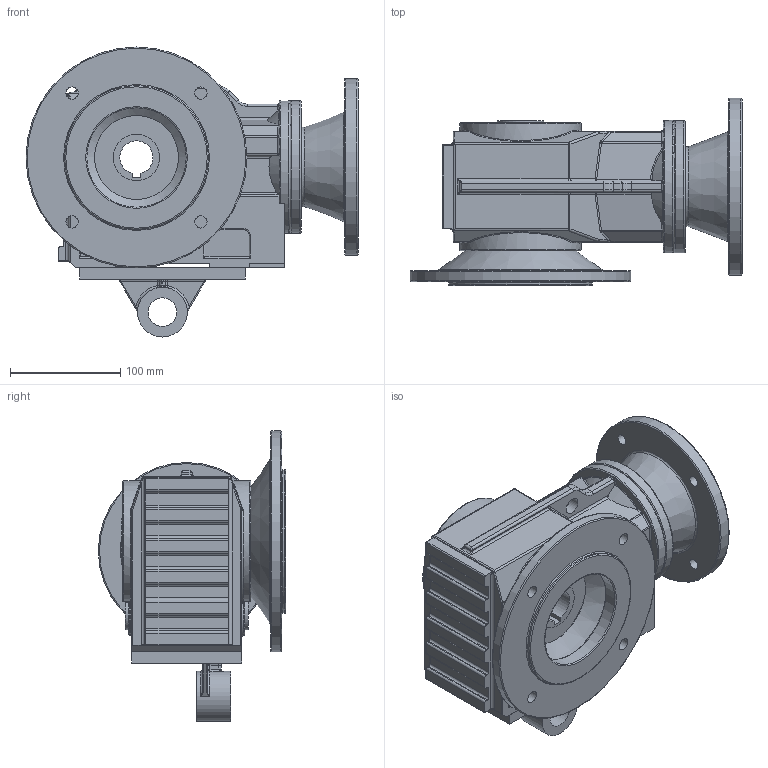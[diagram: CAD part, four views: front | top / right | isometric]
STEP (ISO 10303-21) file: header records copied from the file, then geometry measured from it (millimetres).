
FILE_DESCRIPTION((''),'2;1');
FILE_NAME('F:\PAWEŁ\ZLECENIA\2011 DualSystem\Przekładnie DK\001 Modele\DKAB30_\DK_30_STEP\DK_A_30_AF_AT_71_B5_L61,5.stp','2012-06-25T19:54:47',('admin'),(''),'Autodesk Inventor 2009','Autodesk Inventor 2009','');
FILE_SCHEMA(('AUTOMOTIVE_DESIGN { 1 0 10303 214 1 1 1 1 }'));
Length unit declared in the file: millimetre
Products named in the file (5): DK_A_30_AF_AT_71_B5_L61,5 (Poziom szczegółów1); DK_A_30; 71_B5_L61,5; AF_F_30; AT_30
Assembly tree (4 placements, depth 2):
  DK_A_30_AF_AT_71_B5_L61,5 (Poziom szczegółów1)
    DK_A_30
    71_B5_L61,5
    AF_F_30
    AT_30
Bounding box: 300.5 x 169.5 x 262.5 mm (x, y, z)
Volume: 3827866.9 mm3; surface area: 377782.3 mm2
Topology: 4 solids, 4 shells, 518 faces, 1219 edges, 711 vertices
Faces by surface type: cylinder 194, plane 128, bspline 123, torus 55, sphere 10, cone 8
Full cylindrical faces by diameter (mm): 8.376 x4, 10 x4, 15 x1, 24 x1, 26 x1, 30 x1, 42 x1, 45 x1, 80 x1, 86 x1, 90 x1, 100 x1, 120 x2, 130 x1, 160 x1, 200 x1
Entity records: 19327 total; most frequent: CARTESIAN_POINT 7834, DIRECTION 2392, ORIENTED_EDGE 2272, EDGE_CURVE 1136, AXIS2_PLACEMENT_3D 956, VERTEX_POINT 706, EDGE_LOOP 630, FACE_OUTER_BOUND 518
